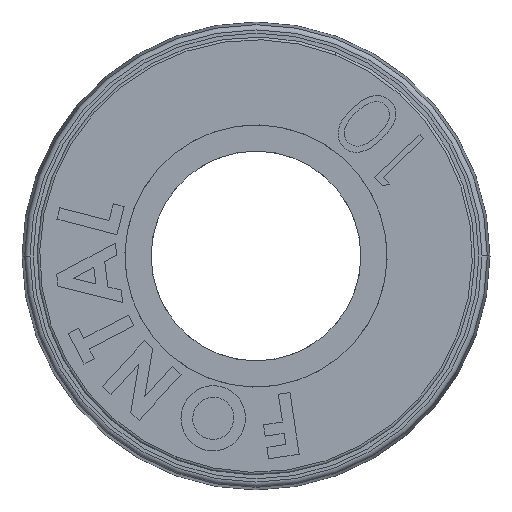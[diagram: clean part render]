
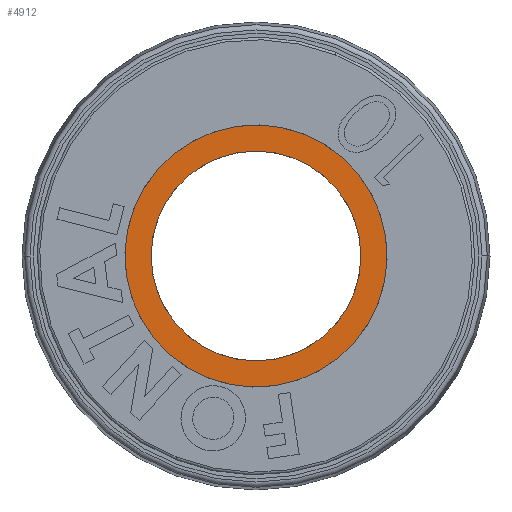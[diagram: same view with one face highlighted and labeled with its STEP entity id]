
A CAD part, left-side view. The second image highlights one B-rep face of the part: STEP entity #4912.
In plain terms, the highlighted planar face has unit normal (-1, 0, 0).
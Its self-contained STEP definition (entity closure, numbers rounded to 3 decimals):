
#6 = FACE_OUTER_BOUND ( 'NONE', #7862, .T. ) ;
#360 = DIRECTION ( 'NONE',  ( -1., 0., 0. ) ) ;
#486 = EDGE_CURVE ( 'NONE', #9432, #1584, #7164, .T. ) ;
#719 = AXIS2_PLACEMENT_3D ( 'NONE', #4001, #6467, #4034 ) ;
#994 = PLANE ( 'NONE',  #7536 ) ;
#1584 = VERTEX_POINT ( 'NONE', #3594 ) ;
#1676 = ORIENTED_EDGE ( 'NONE', *, *, #7782, .F. ) ;
#1879 = DIRECTION ( 'NONE',  ( 0., -1., 0. ) ) ;
#1937 = DIRECTION ( 'NONE',  ( -1., 0., 0. ) ) ;
#2093 = AXIS2_PLACEMENT_3D ( 'NONE', #10017, #360, #7713 ) ;
#2210 = CARTESIAN_POINT ( 'NONE',  ( -2.094, 4., 0. ) ) ;
#2612 = DIRECTION ( 'NONE',  ( -1., 0., 0. ) ) ;
#3071 = AXIS2_PLACEMENT_3D ( 'NONE', #3483, #2612, #1879 ) ;
#3483 = CARTESIAN_POINT ( 'NONE',  ( -2.094, 0., 0. ) ) ;
#3594 = CARTESIAN_POINT ( 'NONE',  ( -2.094, -5., 0. ) ) ;
#4001 = CARTESIAN_POINT ( 'NONE',  ( -2.094, 0., 0. ) ) ;
#4034 = DIRECTION ( 'NONE',  ( 0., -1., 0. ) ) ;
#4171 = FACE_BOUND ( 'NONE', #7361, .T. ) ;
#4174 = ORIENTED_EDGE ( 'NONE', *, *, #6908, .T. ) ;
#4177 = DIRECTION ( 'NONE',  ( 0., -1., 0. ) ) ;
#4253 = DIRECTION ( 'NONE',  ( -1., 0., 0. ) ) ;
#4683 = ORIENTED_EDGE ( 'NONE', *, *, #486, .T. ) ;
#4912 = ADVANCED_FACE ( 'NONE', ( #4171, #6 ), #994, .T. ) ;
#5015 = CIRCLE ( 'NONE', #6513, 4. ) ;
#5056 = DIRECTION ( 'NONE',  ( 0., -1., 0. ) ) ;
#5502 = VERTEX_POINT ( 'NONE', #2210 ) ;
#5854 = CARTESIAN_POINT ( 'NONE',  ( -2.094, 0., 0. ) ) ;
#5900 = CIRCLE ( 'NONE', #719, 5. ) ;
#6467 = DIRECTION ( 'NONE',  ( -1., 0., 0. ) ) ;
#6513 = AXIS2_PLACEMENT_3D ( 'NONE', #5854, #1937, #4177 ) ;
#6646 = ORIENTED_EDGE ( 'NONE', *, *, #6984, .F. ) ;
#6908 = EDGE_CURVE ( 'NONE', #1584, #9432, #5900, .T. ) ;
#6984 = EDGE_CURVE ( 'NONE', #5502, #10018, #5015, .T. ) ;
#7164 = CIRCLE ( 'NONE', #2093, 5. ) ;
#7361 = EDGE_LOOP ( 'NONE', ( #6646, #1676 ) ) ;
#7536 = AXIS2_PLACEMENT_3D ( 'NONE', #9890, #4253, #5056 ) ;
#7701 = CARTESIAN_POINT ( 'NONE',  ( -2.094, -4., 0. ) ) ;
#7713 = DIRECTION ( 'NONE',  ( 0., -1., 0. ) ) ;
#7782 = EDGE_CURVE ( 'NONE', #10018, #5502, #8319, .T. ) ;
#7862 = EDGE_LOOP ( 'NONE', ( #4174, #4683 ) ) ;
#8319 = CIRCLE ( 'NONE', #3071, 4. ) ;
#9432 = VERTEX_POINT ( 'NONE', #9875 ) ;
#9875 = CARTESIAN_POINT ( 'NONE',  ( -2.094, 5., 0. ) ) ;
#9890 = CARTESIAN_POINT ( 'NONE',  ( -2.094, 0., 0. ) ) ;
#10017 = CARTESIAN_POINT ( 'NONE',  ( -2.094, 0., 0. ) ) ;
#10018 = VERTEX_POINT ( 'NONE', #7701 ) ;
